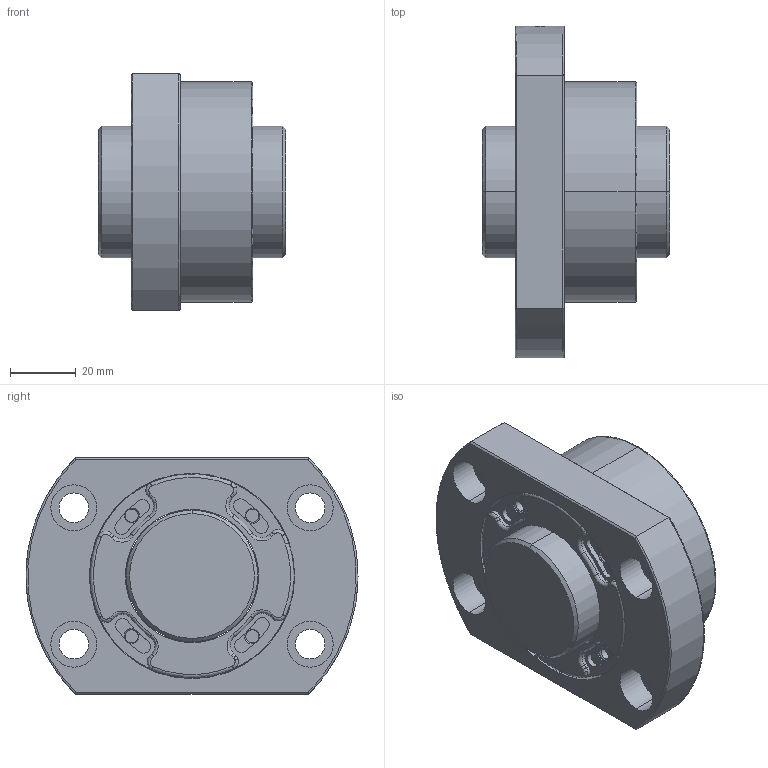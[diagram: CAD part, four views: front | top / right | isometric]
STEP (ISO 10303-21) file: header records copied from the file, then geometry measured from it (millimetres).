
FILE_DESCRIPTION (( 'STEP AP203' ), '1' );
FILE_NAME ('SFVSR04005C1D-C.STEP', '2020-06-17T05:33:15', ( '' ), ( '' ), 'SwSTEP 2.0', 'SolidWorks 2013', '' );
FILE_SCHEMA (( 'CONFIG_CONTROL_DESIGN' ));
Length unit declared in the file: millimetre
Products named in the file (1): SFVSR04005C1D-C
Bounding box: 57 x 101 x 72 mm (x, y, z)
Volume: 185744.7 mm3; surface area: 41023.1 mm2
Topology: 2 solids, 2 shells, 369 faces, 880 edges, 540 vertices
Faces by surface type: cylinder 184, plane 97, bspline 68, cone 20
Entity records: 12583 total; most frequent: CARTESIAN_POINT 3954, DIRECTION 1916, ORIENTED_EDGE 1760, EDGE_CURVE 880, AXIS2_PLACEMENT_3D 820, VERTEX_POINT 540, CIRCLE 518, EDGE_LOOP 408
